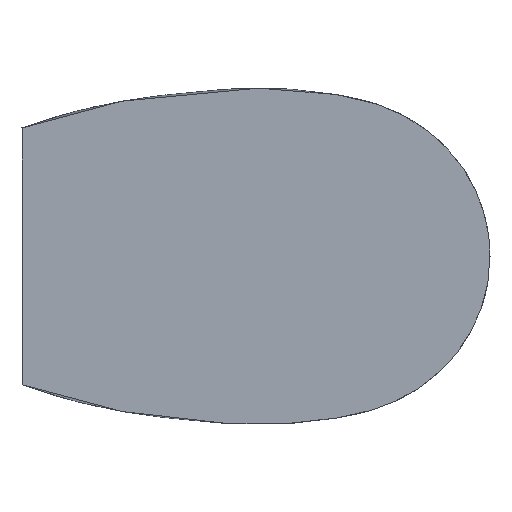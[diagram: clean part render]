
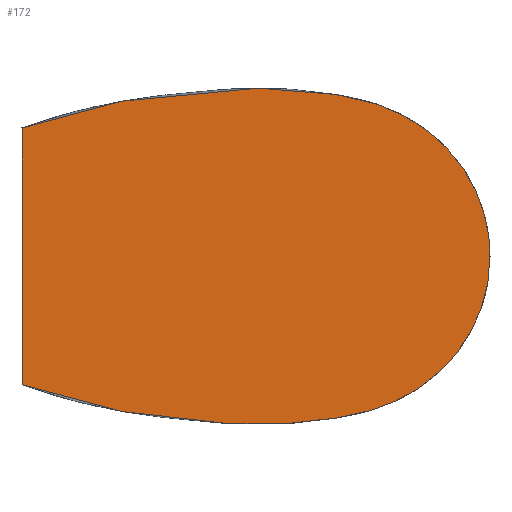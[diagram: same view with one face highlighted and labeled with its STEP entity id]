
A CAD part, left-side view. The second image highlights one B-rep face of the part: STEP entity #172.
In plain terms, the highlighted planar face has unit normal (-1, 0, 0).
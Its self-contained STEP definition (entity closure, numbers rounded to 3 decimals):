
#6=DIRECTION('',(0.,0.,1.));
#7=VECTOR('',#6,1.663);
#8=CARTESIAN_POINT('',(-9.,-0.3,-0.831));
#9=LINE('',#8,#7);
#10=CARTESIAN_POINT('',(-9.,-0.3,0.831));
#11=CARTESIAN_POINT('',(-9.,-0.418,0.874));
#12=CARTESIAN_POINT('',(-9.,-0.657,0.947));
#13=CARTESIAN_POINT('',(-9.,-0.964,1.011));
#14=CARTESIAN_POINT('',(-9.,-1.181,1.04));
#15=CARTESIAN_POINT('',(-9.,-1.308,1.053));
#16=CARTESIAN_POINT('',(-9.,-1.404,1.061));
#17=CARTESIAN_POINT('',(-9.,-1.501,1.071));
#18=CARTESIAN_POINT('',(-9.,-1.633,1.084));
#19=CARTESIAN_POINT('',(-9.,-1.816,1.091));
#20=CARTESIAN_POINT('',(-9.,-2.053,1.084));
#21=CARTESIAN_POINT('',(-9.,-2.265,1.06));
#22=CARTESIAN_POINT('',(-9.,-2.436,1.029));
#23=CARTESIAN_POINT('',(-9.,-2.608,0.988));
#24=CARTESIAN_POINT('',(-9.,-2.816,0.899));
#25=CARTESIAN_POINT('',(-9.,-3.033,0.735));
#26=CARTESIAN_POINT('',(-9.,-3.174,0.555));
#27=CARTESIAN_POINT('',(-9.,-3.254,0.394));
#28=CARTESIAN_POINT('',(-9.,-3.297,0.266));
#29=CARTESIAN_POINT('',(-9.,-3.324,0.134));
#30=CARTESIAN_POINT('',(-9.,-3.329,0.044));
#31=CARTESIAN_POINT('',(-9.,-3.329,0.));
#33=CARTESIAN_POINT('',(-9.,-3.329,0.));
#34=CARTESIAN_POINT('',(-9.,-3.329,-0.044));
#35=CARTESIAN_POINT('',(-9.,-3.324,-0.134));
#36=CARTESIAN_POINT('',(-9.,-3.297,-0.266));
#37=CARTESIAN_POINT('',(-9.,-3.254,-0.394));
#38=CARTESIAN_POINT('',(-9.,-3.174,-0.555));
#39=CARTESIAN_POINT('',(-9.,-3.033,-0.735));
#40=CARTESIAN_POINT('',(-9.,-2.816,-0.899));
#41=CARTESIAN_POINT('',(-9.,-2.608,-0.988));
#42=CARTESIAN_POINT('',(-9.,-2.436,-1.029));
#43=CARTESIAN_POINT('',(-9.,-2.265,-1.06));
#44=CARTESIAN_POINT('',(-9.,-2.053,-1.084));
#45=CARTESIAN_POINT('',(-9.,-1.816,-1.091));
#46=CARTESIAN_POINT('',(-9.,-1.633,-1.084));
#47=CARTESIAN_POINT('',(-9.,-1.501,-1.071));
#48=CARTESIAN_POINT('',(-9.,-1.404,-1.061));
#49=CARTESIAN_POINT('',(-9.,-1.308,-1.053));
#50=CARTESIAN_POINT('',(-9.,-1.181,-1.04));
#51=CARTESIAN_POINT('',(-9.,-0.964,-1.011));
#52=CARTESIAN_POINT('',(-9.,-0.657,-0.947));
#53=CARTESIAN_POINT('',(-9.,-0.418,-0.874));
#54=CARTESIAN_POINT('',(-9.,-0.3,-0.831));
#137=CARTESIAN_POINT('',(-9.,-0.3,-0.831));
#138=CARTESIAN_POINT('',(-9.,-0.3,0.831));
#139=VERTEX_POINT('',#137);
#140=VERTEX_POINT('',#138);
#141=VERTEX_POINT('',#33);
#160=CARTESIAN_POINT('',(-9.,0.,0.));
#161=DIRECTION('',(1.,0.,0.));
#162=DIRECTION('',(0.,0.,-1.));
#163=AXIS2_PLACEMENT_3D('',#160,#161,#162);
#164=PLANE('',#163);
#165=ORIENTED_EDGE('',*,*,#147,.T.);
#167=ORIENTED_EDGE('',*,*,#166,.T.);
#169=ORIENTED_EDGE('',*,*,#168,.T.);
#170=EDGE_LOOP('',(#165,#167,#169));
#171=FACE_OUTER_BOUND('',#170,.F.);
#172=ADVANCED_FACE('',(#171),#164,.F.);
#32=B_SPLINE_CURVE_WITH_KNOTS('',3,(#10,#11,#12,#13,#14,#15,#16,#17,#18,#19,#20,
#21,#22,#23,#24,#25,#26,#27,#28,#29,#30,#31),.UNSPECIFIED.,.F.,.F.,(4,1,1,1,1,1,
1,1,1,1,1,1,1,1,1,1,1,1,1,4),(0.,0.103,0.206,
0.257,0.284,0.31,0.337,
0.364,0.419,0.488,0.558,
0.594,0.631,0.704,0.778,
0.852,0.89,0.927,0.963,1.),
.UNSPECIFIED.);
#55=B_SPLINE_CURVE_WITH_KNOTS('',3,(#33,#34,#35,#36,#37,#38,#39,#40,#41,#42,#43,
#44,#45,#46,#47,#48,#49,#50,#51,#52,#53,#54),.UNSPECIFIED.,.F.,.F.,(4,1,1,1,1,1,
1,1,1,1,1,1,1,1,1,1,1,1,1,4),(0.,0.037,0.073,
0.11,0.148,0.222,0.296,
0.369,0.406,0.442,0.512,
0.581,0.636,0.663,0.69,
0.716,0.743,0.794,0.897,1.),
.UNSPECIFIED.);
#147=EDGE_CURVE('',#139,#140,#9,.T.);
#166=EDGE_CURVE('',#140,#141,#32,.T.);
#168=EDGE_CURVE('',#141,#139,#55,.T.);
